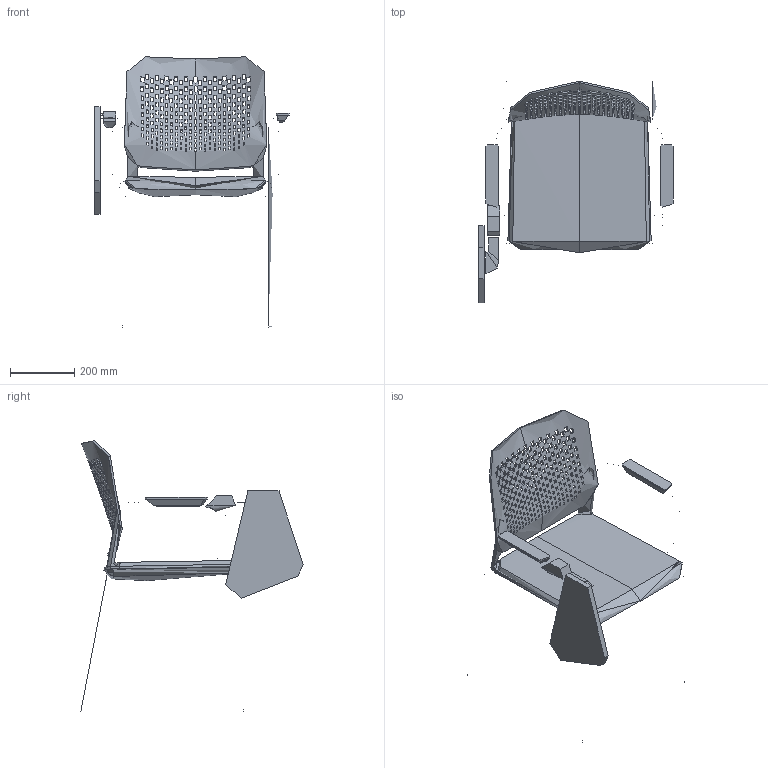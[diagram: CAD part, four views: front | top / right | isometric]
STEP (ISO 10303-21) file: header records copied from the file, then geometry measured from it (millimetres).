
FILE_DESCRIPTION(/* description */ (''),/* implementation_level */ '2;1');
FILE_NAME(/* name */ 'Time 171-B-TP',/* time_stamp */ '2019-11-22T22:58:43+01:00',/* author */ (''),/* organization */ (''),/* preprocessor_version */ 'ST-DEVELOPER v16.5',/* originating_system */ '',/* authorisation */ '');
FILE_SCHEMA (('AUTOMOTIVE_DESIGN'));
Length unit declared in the file: millimetre
Products named in the file (1): Document
Bounding box: 604 x 690.7 x 840.75 mm (x, y, z)
Volume: 5868655.1 mm3; surface area: 1901134.8 mm2
Topology: 4 solids, 16 shells, 1165 faces, 3400 edges, 2227 vertices
Faces by surface type: bspline 656, plane 509
Entity records: 64350 total; most frequent: CARTESIAN_POINT 42598, ORIENTED_EDGE 6749, EDGE_CURVE 3397, B_SPLINE_CURVE_WITH_KNOTS 3249, VERTEX_POINT 2225, EDGE_LOOP 1617, ADVANCED_FACE 1165, FACE_OUTER_BOUND 1165
